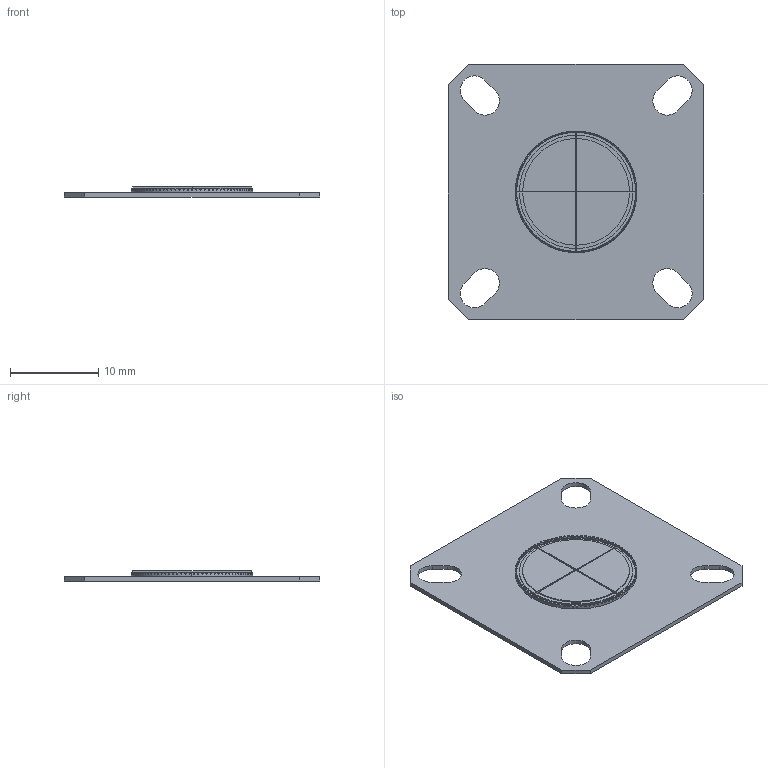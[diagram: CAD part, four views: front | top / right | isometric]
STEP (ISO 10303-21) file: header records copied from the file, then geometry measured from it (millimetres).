
FILE_DESCRIPTION((''),'2;1');
FILE_NAME('PROTO_INSERT_SIM_DUMMY-13','2020-10-15T11:15:26',('ccole'),(''),'CREO PARAMETRIC BY PTC INC, 2019292','CREO PARAMETRIC BY PTC INC, 2019292','');
FILE_SCHEMA(('CONFIG_CONTROL_DESIGN'));
Length unit declared in the file: inch
Products named in the file (1): PROTO_INSERT_SIM_DUMMY-13
Bounding box: 28.88 x 28.88 x 1.14 mm (x, y, z)
Volume: 460 mm3; surface area: 1665.2 mm2
Topology: 1 solids, 1 shells, 607 faces, 1804 edges, 1200 vertices
Faces by surface type: plane 311, cylinder 296
Entity records: 22235 total; most frequent: CARTESIAN_POINT 7474, ORIENTED_EDGE 3608, DIRECTION 2344, EDGE_CURVE 1804, VERTEX_POINT 1200, B_SPLINE_CURVE_WITH_KNOTS 904, AXIS2_PLACEMENT_3D 837, VECTOR 670
